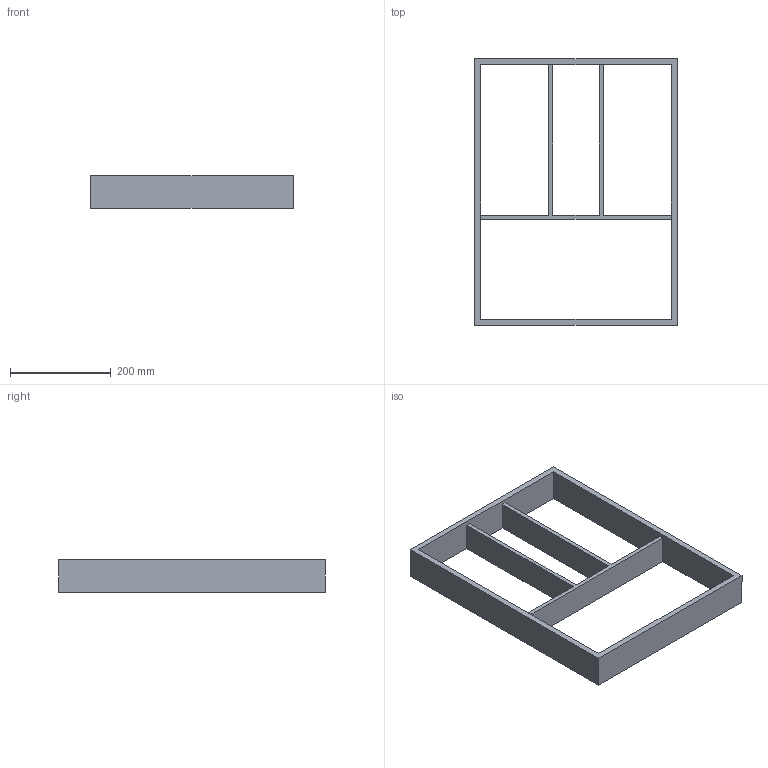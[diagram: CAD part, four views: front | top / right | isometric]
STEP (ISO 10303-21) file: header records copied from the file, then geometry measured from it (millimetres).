
FILE_DESCRIPTION (( 'STEP AP214' ), '1' );
FILE_NAME ('Vario Multi NL550_B500_19 mm_Buche.step', '2010-10-07T06:24:17', ( 'grass' ), ( '' ), 'SwSTEP 2.0', 'SolidWorks 2010', '' );
FILE_SCHEMA (( 'AUTOMOTIVE_DESIGN' ));
Length unit declared in the file: millimetre
Products named in the file (1): Vario Multi NL550_B500_19 mm_Buche
Bounding box: 402 x 529 x 65 mm (x, y, z)
Volume: 1859793.6 mm3; surface area: 403448 mm2
Topology: 1 solids, 1 shells, 19 faces, 60 edges, 40 vertices
Faces by surface type: plane 19
Entity records: 704 total; most frequent: ORIENTED_EDGE 120, CARTESIAN_POINT 120, DIRECTION 100, LINE 60, VECTOR 60, EDGE_CURVE 60, VERTEX_POINT 40, EDGE_LOOP 24
